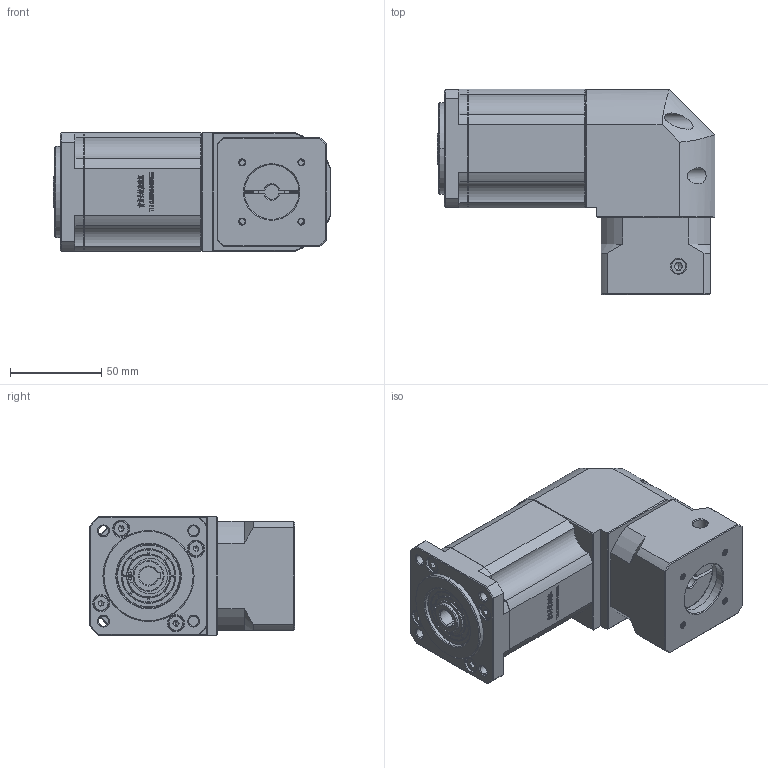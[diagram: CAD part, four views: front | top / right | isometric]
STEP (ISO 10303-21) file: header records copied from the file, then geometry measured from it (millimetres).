
FILE_DESCRIPTION (( 'STEP AP214' ), '1' );
FILE_NAME ('ZBR60-K10-L3-8-30-46-M4.STEP', '2022-04-19T08:17:51', ( '' ), ( 'Microsoft' ), 'SwSTEP 2.0', 'SolidWorks 2016', '' );
FILE_SCHEMA (( 'AUTOMOTIVE_DESIGN' ));
Length unit declared in the file: millimetre
Products named in the file (1): ZBR60-K10-L3-8-30-46-M4
Bounding box: 152.5 x 112.7 x 65 mm (x, y, z)
Volume: 647100 mm3; surface area: 86335.1 mm2
Topology: 5 solids, 5 shells, 2834 faces, 7701 edges, 5011 vertices
Faces by surface type: plane 1467, bspline 636, cylinder 377, cone 322, torus 32
Entity records: 170606 total; most frequent: CARTESIAN_POINT 72421, ORIENTED_EDGE 15362, DIRECTION 11540, EDGE_CURVE 7681, VERTEX_POINT 5011, LINE 4986, VECTOR 4986, AXIS2_PLACEMENT_3D 3277
